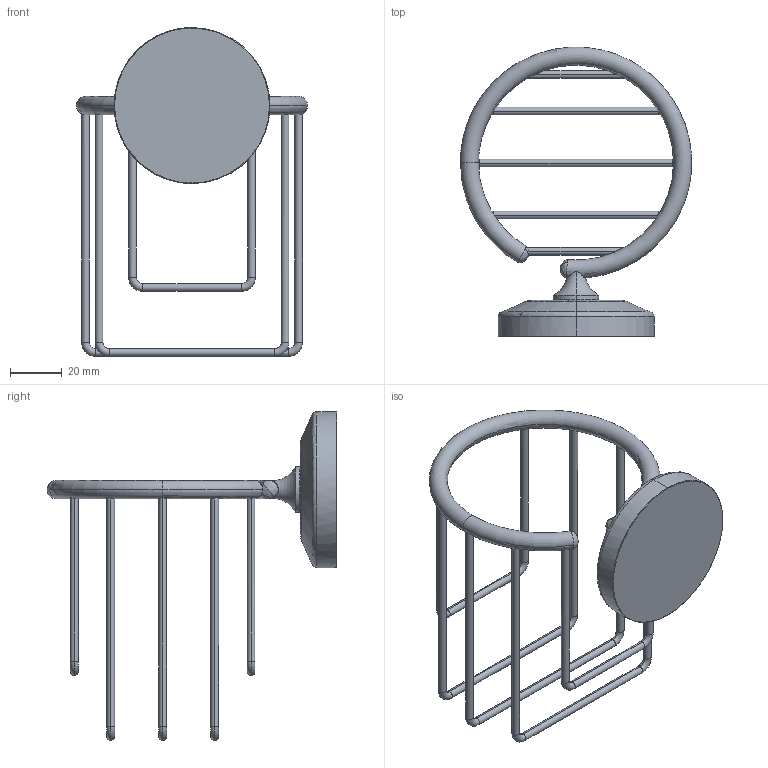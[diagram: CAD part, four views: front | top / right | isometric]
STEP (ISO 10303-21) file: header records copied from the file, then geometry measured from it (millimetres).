
FILE_DESCRIPTION(('THIS FILE CONTAINS SOME STEP INSTANCES'),'1');
FILE_NAME('sta_051.stp','2015-12-07T13:28:39',('UNDEFINED'),('UNDEFINED'),'T-FLEX CAD STEP converter','T-FLEX CAD','');
FILE_SCHEMA(('CONFIG_CONTROL_DESIGN'));
Length unit declared in the file: metre
Products named in the file (1): 3D 鐨飹懤艜_4
Bounding box: 88.96 x 111.46 x 126.5 mm (x, y, z)
Volume: 53166.9 mm3; surface area: 23411.2 mm2
Topology: 1 solids, 1 shells, 82 faces, 184 edges, 100 vertices
Faces by surface type: cylinder 34, torus 30, cone 8, bspline 6, plane 4
Entity records: 6284 total; most frequent: CARTESIAN_POINT 4810, ORIENTED_EDGE 360, DIRECTION 232, EDGE_CURVE 180, VERTEX_POINT 100, AXIS2_PLACEMENT_3D 95, EDGE_LOOP 92, ADVANCED_FACE 82
